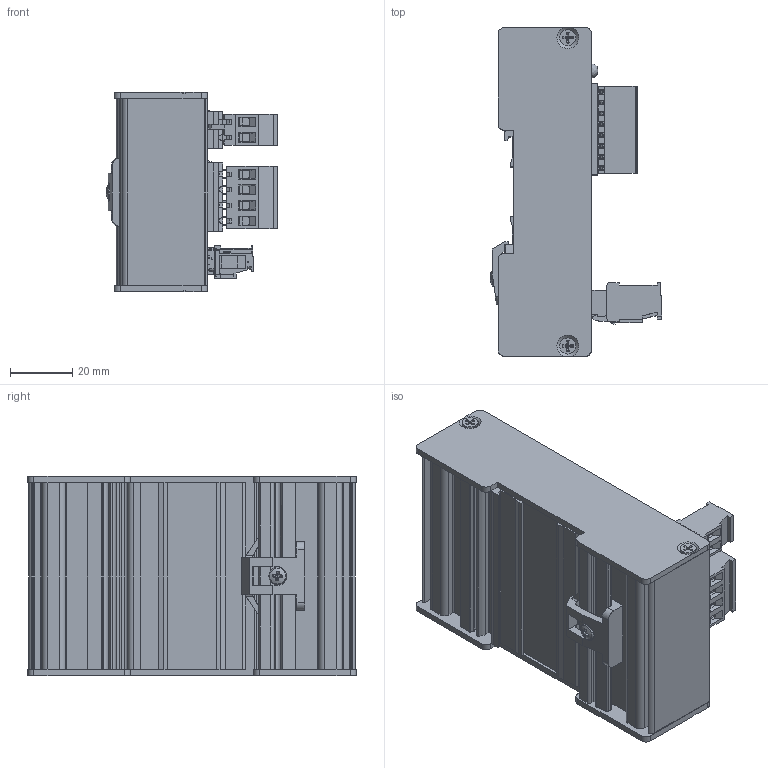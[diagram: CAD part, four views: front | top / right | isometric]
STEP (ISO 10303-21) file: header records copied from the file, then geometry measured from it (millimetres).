
FILE_DESCRIPTION(/* description */ (''),/* implementation_level */ '2;1');
FILE_NAME(/* name */ 'P:\1044_mini_LED_driver\04 Lightning mini 10\mech drawings\Lightning_mini_10-2.stp',/* time_stamp */ '2018-12-04T14:52:07+01:00',/* author */ ('User'),/* organization */ (''),/* preprocessor_version */ 'ST-DEVELOPER v16.5',/* originating_system */ 'Autodesk Inventor 2017',/* authorisation */ '');
FILE_SCHEMA (('AUTOMOTIVE_DESIGN { 1 0 10303 214 3 1 1 }'));
Products named in the file (1): Lightning_mini_10-2
Bounding box: 55.18 x 105.5 x 64 mm (x, y, z)
Volume: 69814.7 mm3; surface area: 85163.3 mm2
Topology: 1 solids, 12 shells, 5270 faces, 15094 edges, 9618 vertices
Faces by surface type: plane 4032, cylinder 1008, torus 94, cone 80, bspline 49, sphere 7
Full cylindrical faces by diameter (mm): 0.434 x2, 0.457 x1, 1.2 x8, 1.4 x6, 1.5 x8, 1.6 x9, 1.9 x8, 2.1 x8, 2.387 x4, 2.7 x16, 2.8 x4, 2.86 x4, 2.9 x12, 3 x2, 3.7 x6, 4 x4, 4.58 x4, 5.08 x4, 5.2 x4, 5.24 x1, 5.6 x1
Entity records: 177668 total; most frequent: CARTESIAN_POINT 34645, ORIENTED_EDGE 29626, DIRECTION 27584, EDGE_CURVE 14803, LINE 11822, VECTOR 11822, VERTEX_POINT 9523, AXIS2_PLACEMENT_3D 7881
